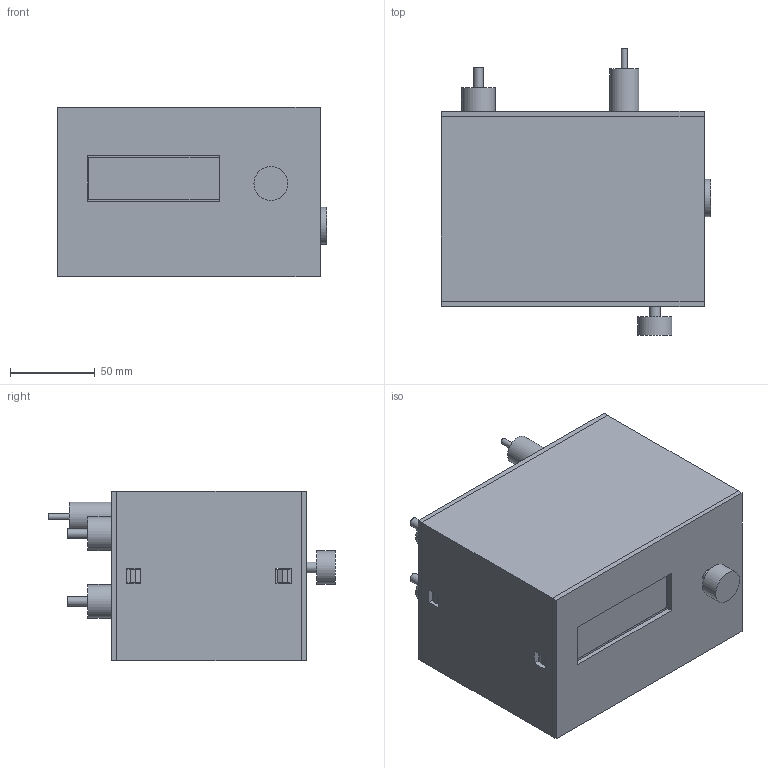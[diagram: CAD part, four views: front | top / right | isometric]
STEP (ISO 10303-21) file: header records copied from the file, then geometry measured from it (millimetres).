
FILE_DESCRIPTION(('Open CASCADE Model'),'2;1');
FILE_NAME('Open CASCADE Shape Model','2026-11-05T11:13:34',('Author'),( 'Open CASCADE'),'Open CASCADE STEP processor 7.8','Open CASCADE 7.8' ,'Unknown');
FILE_SCHEMA(('AUTOMOTIVE_DESIGN { 1 0 10303 214 1 1 1 1 }'));
Length unit declared in the file: millimetre
Products named in the file (98): Laboratory_controller_fit_study_05_XL4015_Diymore; 01_Pieces_imprimees; 05_XL4015_removable_carrier; 01_Shell_open_front_and_rear; 02_Removable_front_LCD_A; 03_B_removable_carrier; 04_Rear_panel_with_latches; 02_Carte_A_reference; PCB_A; A_C1_ENVELOPE; A_C2_ENVELOPE; A_C3_ENVELOPE; A_J1_ENVELOPE; A_J2_ENVELOPE; A_J3_ENVELOPE; A_J4_ENVELOPE; A_J5_ENVELOPE; A_J6_ENVELOPE; A_J7_ENVELOPE; A_JP1_ENVELOPE; A_R1_ENVELOPE; A_R2_ENVELOPE; A_R3_ENVELOPE; A_R4_ENVELOPE; A_R5_ENVELOPE; A_U2_ENVELOPE; A_DEVKIT_SOCKET_34.03; A_DEVKIT_SOCKET_59.43; A_DIYMORE_PCB_54x27; A_DIYMORE_RF_SHIELD; A_DIYMORE_CH340; A_DIYMORE_USB_C; 03_Carte_B_reference; PCB_B; B_C1_ENVELOPE; B_C2_ENVELOPE; B_C3_ENVELOPE; B_C4_ENVELOPE; B_C5_ENVELOPE; B_C6_ENVELOPE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
Assembly tree (97 placements, depth 3):
  Laboratory_controller_fit_study_05_XL4015_Diymore
    01_Pieces_imprimees
      05_XL4015_removable_carrier
      01_Shell_open_front_and_rear
      02_Removable_front_LCD_A
      03_B_removable_carrier
      04_Rear_panel_with_latches
    02_Carte_A_reference
      PCB_A
      A_C1_ENVELOPE
      A_C2_ENVELOPE
      A_C3_ENVELOPE
      A_J1_ENVELOPE
      A_J2_ENVELOPE
      A_J3_ENVELOPE
      A_J4_ENVELOPE
      A_J5_ENVELOPE
      A_J6_ENVELOPE
      A_J7_ENVELOPE
      A_JP1_ENVELOPE
      A_R1_ENVELOPE
      A_R2_ENVELOPE
      A_R3_ENVELOPE
      A_R4_ENVELOPE
      A_R5_ENVELOPE
      A_U2_ENVELOPE
      A_DEVKIT_SOCKET_34.03
      A_DEVKIT_SOCKET_59.43
      A_DIYMORE_PCB_54x27
      A_DIYMORE_RF_SHIELD
      A_DIYMORE_CH340
      A_DIYMORE_USB_C
    03_Carte_B_reference
      PCB_B
      B_C1_ENVELOPE
      B_C2_ENVELOPE
      B_C3_ENVELOPE
      B_C4_ENVELOPE
      B_C5_ENVELOPE
      B_C6_ENVELOPE
      B_C7_ENVELOPE
      B_C8_ENVELOPE
      B_D2_ENVELOPE
      B_D3_ENVELOPE
      B_D4_ENVELOPE
      B_F1_ENVELOPE
      B_F2_ENVELOPE
      B_J1_ENVELOPE
      B_J2_ENVELOPE
      B_J3_ENVELOPE
      B_J4_ENVELOPE
      B_J6_ENVELOPE
      B_J7_ENVELOPE
      B_J8_ENVELOPE
      B_J9_ENVELOPE
      B_Q1_ENVELOPE
      B_Q2_ENVELOPE
      B_R1_ENVELOPE
      B_R2_ENVELOPE
      B_R3_ENVELOPE
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Bounding box: 159 x 169 x 100 mm (x, y, z)
Volume: 446123.7 mm3; surface area: 335833.5 mm2
Topology: 90 solids, 90 shells, 1015 faces, 2396 edges, 1585 vertices
Faces by surface type: plane 970, cylinder 45
Full cylindrical faces by diameter (mm): 2.2 x12, 3 x3, 3.5 x1, 4.3 x1, 5.5 x2, 6.3 x2, 6.4 x1, 7.2 x1, 8 x1, 12 x6, 12.4 x1, 12.5 x2, 15 x2, 16 x1, 17 x2, 20 x5, 22 x2
Entity records: 61462 total; most frequent: CARTESIAN_POINT 11144, DIRECTION 8540, LINE 5983, VECTOR 5983, ORIENTED_EDGE 4792, PCURVE 4792, DEFINITIONAL_REPRESENTATION 4792, EDGE_CURVE 2396
